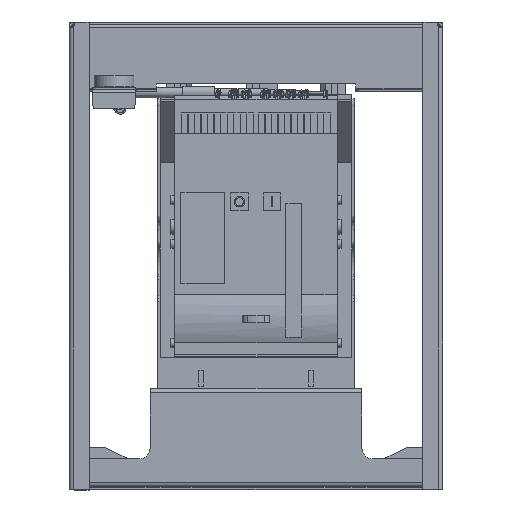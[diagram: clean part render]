
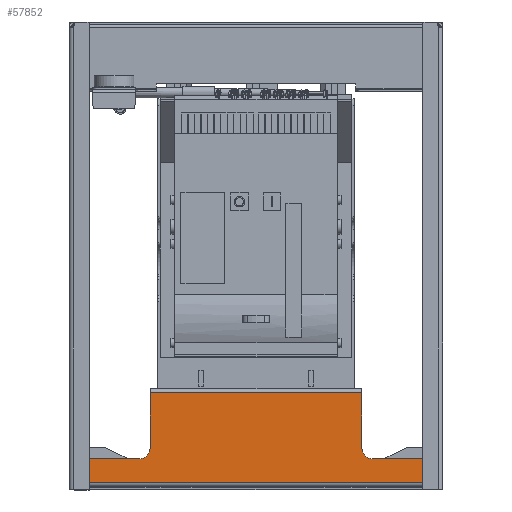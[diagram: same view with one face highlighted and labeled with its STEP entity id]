
A CAD part, top view. The second image highlights one B-rep face of the part: STEP entity #57852.
In plain terms, the highlighted planar face has unit normal (0, 0, 1).
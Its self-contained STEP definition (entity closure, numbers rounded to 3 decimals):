
#724 = VERTEX_POINT ( 'NONE', #57783 ) ;
#1617 = VECTOR ( 'NONE', #128455, 1000. ) ;
#3168 = EDGE_CURVE ( 'NONE', #127782, #64624, #147035, .T. ) ;
#4312 = AXIS2_PLACEMENT_3D ( 'NONE', #124446, #77085, #39068 ) ;
#4563 = CARTESIAN_POINT ( 'NONE',  ( -170., 66., 746. ) ) ;
#5367 = DIRECTION ( 'NONE',  ( 0., 1., 0. ) ) ;
#6235 = EDGE_CURVE ( 'NONE', #140124, #87149, #54969, .T. ) ;
#8258 = ORIENTED_EDGE ( 'NONE', *, *, #3168, .F. ) ;
#18102 = CARTESIAN_POINT ( 'NONE',  ( 0., 49., 746. ) ) ;
#18202 = CIRCLE ( 'NONE', #68181, 17. ) ;
#19980 = CARTESIAN_POINT ( 'NONE',  ( 170., 154.5, 746. ) ) ;
#25524 = LINE ( 'NONE', #117565, #36429 ) ;
#26313 = CARTESIAN_POINT ( 'NONE',  ( -170., 161.5, 746. ) ) ;
#27054 = ORIENTED_EDGE ( 'NONE', *, *, #35967, .T. ) ;
#28955 = EDGE_CURVE ( 'NONE', #63296, #724, #133472, .T. ) ;
#29874 = LINE ( 'NONE', #115089, #65379 ) ;
#30054 = VERTEX_POINT ( 'NONE', #126912 ) ;
#35967 = EDGE_CURVE ( 'NONE', #83644, #140124, #119787, .T. ) ;
#36429 = VECTOR ( 'NONE', #142413, 1000. ) ;
#37809 = DIRECTION ( 'NONE',  ( 0., -1., 0. ) ) ;
#39068 = DIRECTION ( 'NONE',  ( 0., 1., 0. ) ) ;
#40439 = ORIENTED_EDGE ( 'NONE', *, *, #92086, .T. ) ;
#40820 = DIRECTION ( 'NONE',  ( 0., 0., -1. ) ) ;
#45155 = CARTESIAN_POINT ( 'NONE',  ( 160., 154.5, 746. ) ) ;
#45253 = EDGE_CURVE ( 'NONE', #127782, #83644, #147974, .T. ) ;
#50258 = CARTESIAN_POINT ( 'NONE',  ( 187., 66., 746. ) ) ;
#50280 = DIRECTION ( 'NONE',  ( -1., 0., 0. ) ) ;
#50282 = ORIENTED_EDGE ( 'NONE', *, *, #45253, .T. ) ;
#50743 = EDGE_CURVE ( 'NONE', #59077, #30054, #18202, .T. ) ;
#54969 = LINE ( 'NONE', #145011, #146184 ) ;
#55685 = VERTEX_POINT ( 'NONE', #91863 ) ;
#57783 = CARTESIAN_POINT ( 'NONE',  ( 268., 11., 746. ) ) ;
#57852 = ADVANCED_FACE ( 'NONE', ( #116250 ), #124129, .F. ) ;
#59077 = VERTEX_POINT ( 'NONE', #112016 ) ;
#59681 = LINE ( 'NONE', #18102, #67199 ) ;
#62056 = EDGE_CURVE ( 'NONE', #63296, #87149, #25524, .T. ) ;
#63296 = VERTEX_POINT ( 'NONE', #150679 ) ;
#63996 = ORIENTED_EDGE ( 'NONE', *, *, #6235, .T. ) ;
#64624 = VERTEX_POINT ( 'NONE', #19980 ) ;
#65063 = DIRECTION ( 'NONE',  ( -1., 0., 0. ) ) ;
#65379 = VECTOR ( 'NONE', #138510, 1000. ) ;
#67199 = VECTOR ( 'NONE', #65063, 1000. ) ;
#68181 = AXIS2_PLACEMENT_3D ( 'NONE', #50258, #143413, #108050 ) ;
#70364 = CARTESIAN_POINT ( 'NONE',  ( -291., 11., 746. ) ) ;
#73648 = EDGE_CURVE ( 'NONE', #724, #55685, #106681, .T. ) ;
#75293 = ORIENTED_EDGE ( 'NONE', *, *, #91938, .T. ) ;
#77085 = DIRECTION ( 'NONE',  ( 0., 0., -1. ) ) ;
#83644 = VERTEX_POINT ( 'NONE', #4563 ) ;
#85060 = ORIENTED_EDGE ( 'NONE', *, *, #62056, .F. ) ;
#86688 = CARTESIAN_POINT ( 'NONE',  ( -187., 49., 746. ) ) ;
#87149 = VERTEX_POINT ( 'NONE', #147240 ) ;
#88690 = ORIENTED_EDGE ( 'NONE', *, *, #73648, .T. ) ;
#88765 = CARTESIAN_POINT ( 'NONE',  ( 0., 161.5, 746. ) ) ;
#91863 = CARTESIAN_POINT ( 'NONE',  ( 268., 49., 746. ) ) ;
#91938 = EDGE_CURVE ( 'NONE', #30054, #64624, #29874, .T. ) ;
#92086 = EDGE_CURVE ( 'NONE', #55685, #59077, #59681, .T. ) ;
#103342 = VECTOR ( 'NONE', #37809, 1000. ) ;
#106473 = CARTESIAN_POINT ( 'NONE',  ( -170., 154.5, 746. ) ) ;
#106681 = LINE ( 'NONE', #142237, #132799 ) ;
#108050 = DIRECTION ( 'NONE',  ( 0., 1., 0. ) ) ;
#112016 = CARTESIAN_POINT ( 'NONE',  ( 187., 49., 746. ) ) ;
#112771 = AXIS2_PLACEMENT_3D ( 'NONE', #88765, #40820, #5367 ) ;
#114879 = EDGE_LOOP ( 'NONE', ( #85060, #146920, #88690, #40439, #150134, #75293, #8258, #50282, #27054, #63996 ) ) ;
#115089 = CARTESIAN_POINT ( 'NONE',  ( 170., 161.5, 746. ) ) ;
#116250 = FACE_OUTER_BOUND ( 'NONE', #114879, .T. ) ;
#117565 = CARTESIAN_POINT ( 'NONE',  ( -268., 743., 746. ) ) ;
#118614 = VECTOR ( 'NONE', #131129, 1000. ) ;
#119787 = CIRCLE ( 'NONE', #4312, 17. ) ;
#124129 = PLANE ( 'NONE',  #112771 ) ;
#124446 = CARTESIAN_POINT ( 'NONE',  ( -187., 66., 746. ) ) ;
#126912 = CARTESIAN_POINT ( 'NONE',  ( 170., 66., 746. ) ) ;
#127782 = VERTEX_POINT ( 'NONE', #106473 ) ;
#128455 = DIRECTION ( 'NONE',  ( 1., 0., 0. ) ) ;
#130824 = DIRECTION ( 'NONE',  ( 0., 1., 0. ) ) ;
#131129 = DIRECTION ( 'NONE',  ( 1., 0., 0. ) ) ;
#132799 = VECTOR ( 'NONE', #130824, 1000. ) ;
#133472 = LINE ( 'NONE', #70364, #118614 ) ;
#138510 = DIRECTION ( 'NONE',  ( 0., 1., 0. ) ) ;
#140124 = VERTEX_POINT ( 'NONE', #86688 ) ;
#142237 = CARTESIAN_POINT ( 'NONE',  ( 268., 743., 746. ) ) ;
#142413 = DIRECTION ( 'NONE',  ( 0., 1., 0. ) ) ;
#143413 = DIRECTION ( 'NONE',  ( 0., 0., -1. ) ) ;
#145011 = CARTESIAN_POINT ( 'NONE',  ( 0., 49., 746. ) ) ;
#146184 = VECTOR ( 'NONE', #50280, 1000. ) ;
#146920 = ORIENTED_EDGE ( 'NONE', *, *, #28955, .T. ) ;
#147035 = LINE ( 'NONE', #45155, #1617 ) ;
#147240 = CARTESIAN_POINT ( 'NONE',  ( -268., 49., 746. ) ) ;
#147974 = LINE ( 'NONE', #26313, #103342 ) ;
#150134 = ORIENTED_EDGE ( 'NONE', *, *, #50743, .T. ) ;
#150679 = CARTESIAN_POINT ( 'NONE',  ( -268., 11., 746. ) ) ;
